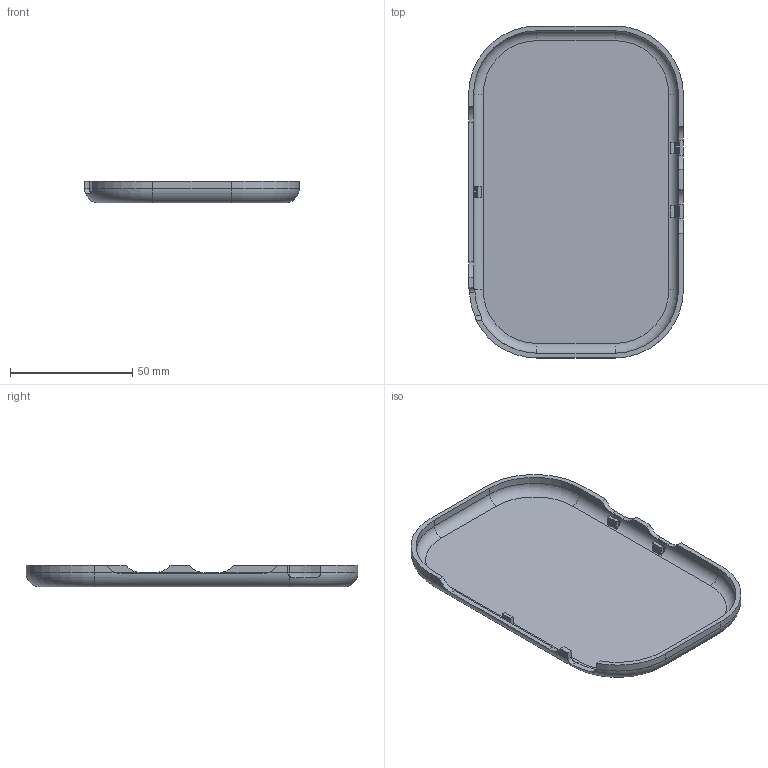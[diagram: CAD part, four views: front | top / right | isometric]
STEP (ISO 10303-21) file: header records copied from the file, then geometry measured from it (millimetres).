
FILE_DESCRIPTION(('Open CASCADE Model'),'2;1');
FILE_NAME('Open CASCADE Shape Model','2026-09-08T16:16:29',('Author'),( 'Open CASCADE'),'Open CASCADE STEP processor 7.7','Open CASCADE 7.7' ,'Unknown');
FILE_SCHEMA(('AUTOMOTIVE_DESIGN { 1 0 10303 214 1 1 1 1 }'));
Length unit declared in the file: millimetre
Products named in the file (1): Open CASCADE STEP translator 7.7 14
Bounding box: 88 x 136 x 9 mm (x, y, z)
Volume: 25655.8 mm3; surface area: 26550.4 mm2
Topology: 1 solids, 1 shells, 108 faces, 286 edges, 186 vertices
Faces by surface type: plane 76, cylinder 24, torus 8
Entity records: 7949 total; most frequent: CARTESIAN_POINT 2313, DIRECTION 1021, LINE 626, VECTOR 626, ORIENTED_EDGE 572, PCURVE 572, DEFINITIONAL_REPRESENTATION 572, EDGE_CURVE 286
